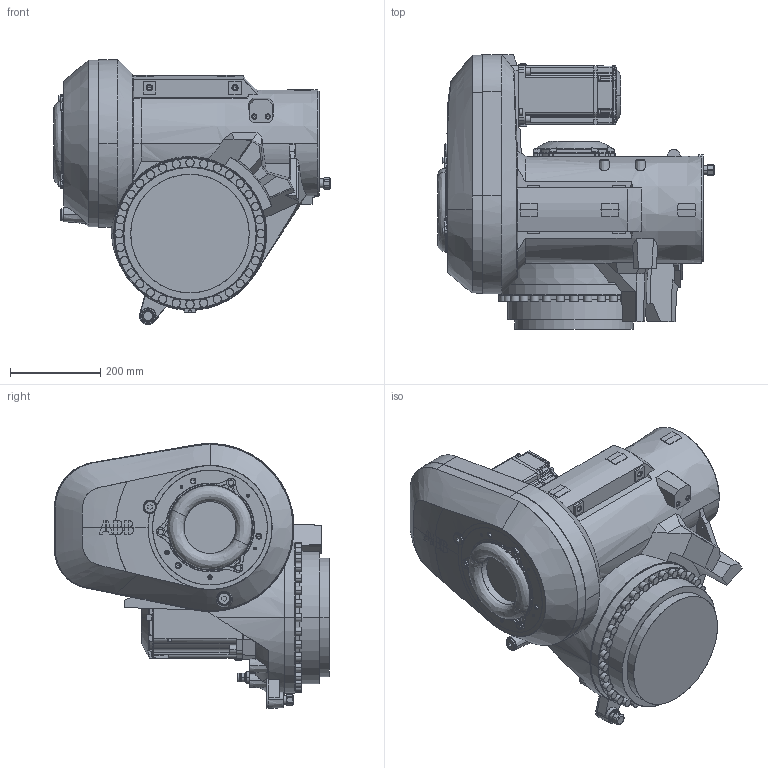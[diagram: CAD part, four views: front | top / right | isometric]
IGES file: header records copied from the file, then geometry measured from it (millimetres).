
Start section: SolidWorks IGES file using analytic representation for surfaces
Global section: file name: C:\DATA\SAP_DOC\LW\IRB 6730\IRB6730-LID-SW_190kg-310_OC_01_SW_J\Export\IRB6730-LID-SW_190kg-310_OC_01_IGES_J\IRB6730-LID_190kg-310_OC_00_LINK03_CAD.igs; native system: SolidWorks 2024; preprocessor: SolidWorks 2024; author: SEJOVAS3; date: 260526.111707; units: millimetre
Bounding box: 615 x 610 x 588.32 mm (x, y, z)
Surface area: 1855106.3 mm2 (no closed solid volume)
Topology: 0 solids, 0 shells, 1861 faces, 23230 edges, 23176 vertices
Faces by surface type: bspline 1054, revolution 807
